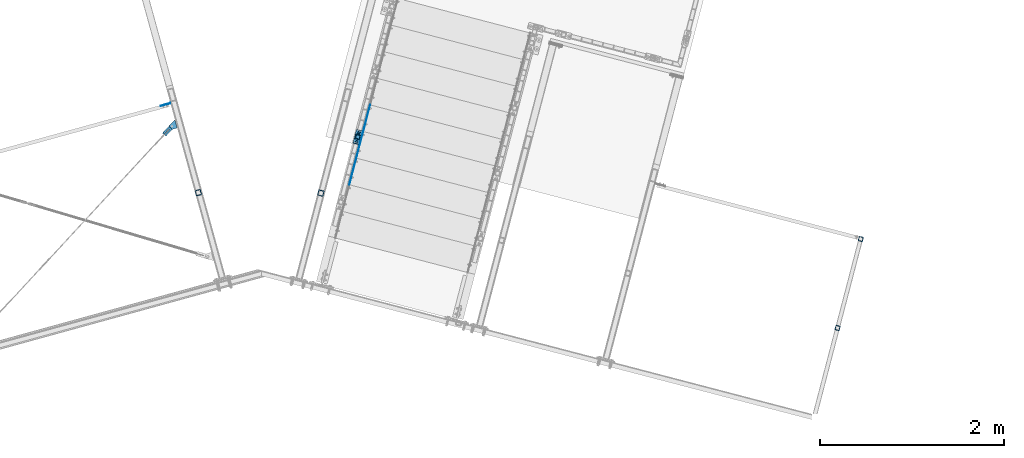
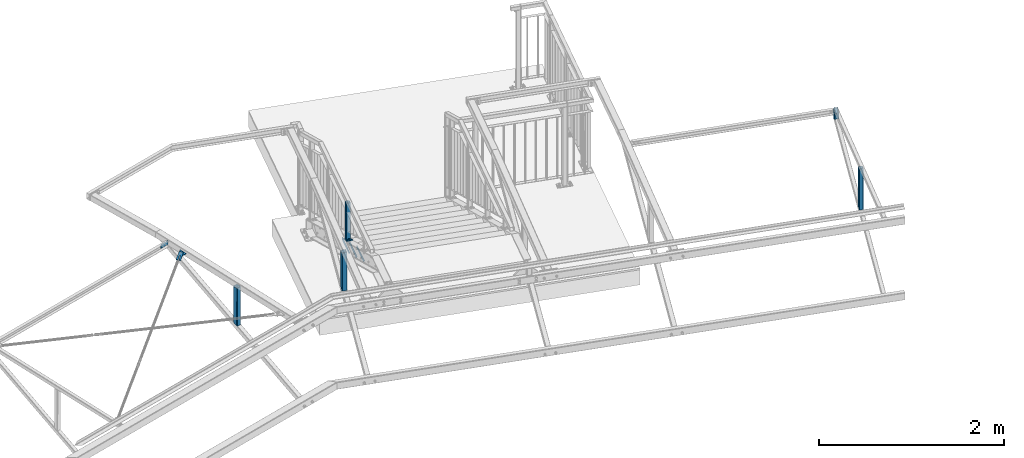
# One storey, part 90 of 169: 12 discrete accessories, 1 mechanical fastener, 8 elements without a shape of their own.
"""IFC2X3 building model written with IfcOpenShell, lengths in millimetres."""

from ifc_helpers import new_model, si_unit, frame, frame_2d, origin_with_axes, origin_2d_with_axis, place, context, subcontext, project, spatial, polyline, circle_curve, parameter, trimmed, segment, composite_curve, rectangle, hollow_rectangle, circle, outline, extrude, boolean, clip, halfspace, source, transform, mapped, material, type_object, element, aggregate, save


model = new_model("IFC2X3")

# Units and contexts
model_context = context("Model", 3, precision=1e-05, world=origin_with_axes())
body_context = subcontext(model_context, "Body", "Model", "MODEL_VIEW")
ifc_project = project(units=[si_unit("LENGTHUNIT", "METRE", prefix="MILLI"), si_unit("AREAUNIT", "SQUARE_METRE"), si_unit("VOLUMEUNIT", "CUBIC_METRE"), si_unit("MASSUNIT", "GRAM", prefix="KILO"), si_unit("TIMEUNIT", "SECOND"), si_unit("PLANEANGLEUNIT", "RADIAN"), si_unit("SOLIDANGLEUNIT", "STERADIAN"), si_unit("THERMODYNAMICTEMPERATUREUNIT", "DEGREE_CELSIUS"), si_unit("LUMINOUSINTENSITYUNIT", "LUMEN")], contexts=[model_context])

# Site, building, storey
site_placement = place(None, origin_with_axes())
site = spatial("IfcSite", under=ifc_project, at=site_placement, Name="Undefined", CompositionType="ELEMENT")
building_placement = place(site_placement, origin_with_axes())
building = spatial("IfcBuilding", under=site, at=building_placement, Name="Undefined", CompositionType="ELEMENT")
storey_placement = place(building_placement, origin_with_axes())
storey = spatial("IfcBuildingStorey", under=building, at=storey_placement, Name="Undefined", CompositionType="ELEMENT", Elevation=0.0)

# Assembly, discrete accessory
assembly_1_placement = place(storey_placement, origin_with_axes())
assembly_1 = element("IfcElementAssembly", 1, at=assembly_1_placement, inside=storey, Name="Steel Assembly", AssemblyPlace="NOTDEFINED", PredefinedType="RIGID_FRAME")
ifc_material_1 = material(Name="STEEL/S235")
discrete_accessory_type_1 = type_object("IfcDiscreteAccessoryType", Name="BLACHA")
discrete_accessory_1_placement = place(assembly_1_placement, frame((-10535.197656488, 19732.9763272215, 13495.0562424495), z_axis=(0.111692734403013, 0.427781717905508, 0.896954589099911), x_axis=(-0.967563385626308, 0.252628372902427, -1.72000000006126e-07)))
discrete_accessory_1 = element("IfcDiscreteAccessory", 2, at=discrete_accessory_1_placement, type_object=discrete_accessory_type_1, material=ifc_material_1, Name="BLACHA", ObjectType="BL12*170", context=body_context, shape_type="SweptSolid", body=[
    extrude(outline(polyline([(70.0000000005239, 84.9999999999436), (70.0000000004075, -84.9999999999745), (-5.82076609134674e-11, -84.99999999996), (5.82076609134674e-11, 84.99999999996), (70.0000000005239, 84.9999999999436)])), frame((-1.81898942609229e-12, -1.81898940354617e-12, -5.99999999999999), z_axis=(0.0, 0.0, 1.0), x_axis=(1.0, 0.0, 0.0)), (0.0, 0.0, 1.0), 12.0),
])

assembly_2_placement = place(storey_placement, origin_with_axes())
assembly_2 = element("IfcElementAssembly", 3, at=assembly_2_placement, inside=storey, Name="Steel Assembly", AssemblyPlace="NOTDEFINED", PredefinedType="RIGID_FRAME")
ifc_material_2 = material(Name="STEEL/S355")
discrete_accessory_2_placement = place(assembly_2_placement, frame((-12660.0974582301, 20095.9334560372, 13921.5005822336), z_axis=(0.265001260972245, -0.964247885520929, 0.000589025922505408), x_axis=(-0.000156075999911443, 0.000567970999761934, 0.999999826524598)))
discrete_accessory_2 = element("IfcDiscreteAccessory", 4, at=discrete_accessory_2_placement, type_object=discrete_accessory_type_1, material=ifc_material_2, Name="BLACHA", ObjectType="BL110X6", context=body_context, shape_type="SweptSolid", body=[
    extrude(outline(polyline([(-2.00088834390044e-11, 54.9999999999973), (49.9999999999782, 55.0000000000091), (50.00000000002, -54.9999999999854), (2.00088834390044e-11, -54.9999999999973), (-2.00088834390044e-11, 54.9999999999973)])), frame((4.06575814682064e-20, 9.09383216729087e-13, -3.0), z_axis=(0.0, 0.0, 1.0), x_axis=(1.0, 0.0, 0.0)), (0.0, 0.0, 1.0), 6.0),
])

assembly_3_placement = place(storey_placement, origin_with_axes())
assembly_3 = element("IfcElementAssembly", 5, at=assembly_3_placement, inside=storey, Name="Steel Assembly", AssemblyPlace="NOTDEFINED", PredefinedType="RIGID_FRAME")
discrete_accessory_3_placement = place(assembly_3_placement, frame((-12656.2090049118, 19752.1313300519, 13939.4835106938), z_axis=(0.013233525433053, -0.0481524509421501, 0.998752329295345), x_axis=(0.678875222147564, 0.733779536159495, 0.0263822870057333)))
discrete_accessory_3 = element("IfcDiscreteAccessory", 6, at=discrete_accessory_3_placement, type_object=discrete_accessory_type_1, material=ifc_material_1, Name="BLACHA", ObjectType="BL8*50", context=body_context, shape_type="SweptSolid", body=[
    extrude(outline(polyline([(0.0, 0.0), (150.000000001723, 4.00177668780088e-11), (150.000000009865, 50.0000000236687), (-2.8421709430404e-11, 50.0000000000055), (-1.63709046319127e-10, 30.0000000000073), (80.0000000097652, 30.0000000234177), (80.0000000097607, 20.0000000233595), (3.27418092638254e-11, 20.0000000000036), (0.0, 0.0)])), frame((1.81942236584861e-12, -3.63797880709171e-12, -4.00000000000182), z_axis=(0.0, 0.0, 1.0), x_axis=(1.0, 0.0, 0.0)), (0.0, 0.0, 1.0), 8.0),
])
aggregate(assembly_3, [discrete_accessory_3])

# Discrete accessory
discrete_accessory_4_placement = place(assembly_2_placement, frame((-12533.0285726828, 19841.1195582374, 13934.1317233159), z_axis=(0.013233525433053, -0.0481524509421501, 0.998752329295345), x_axis=(-0.264670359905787, 0.96304507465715, 0.0499378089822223)))
discrete_accessory_4 = element("IfcDiscreteAccessory", 7, at=discrete_accessory_4_placement, type_object=discrete_accessory_type_1, material=ifc_material_1, Name="BLACHA", ObjectType="BL8*80", context=body_context, shape_type="SweptSolid", body=[
    extrude(outline(polyline([(0.0, 0.0), (94.6373443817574, 8.25821189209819e-10), (42.4528236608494, 83.8679275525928), (2.23444658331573e-08, 57.4528236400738), (0.0, 0.0)])), frame((1.81942236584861e-12, -3.63797880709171e-12, -4.00000000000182), z_axis=(0.0, 0.0, 1.0), x_axis=(1.0, 0.0, 0.0)), (0.0, 0.0, 1.0), 8.0),
])

discrete_accessory_type_2 = type_object("IfcDiscreteAccessoryType", Name="BEAM")
discrete_accessory_5_placement = place(assembly_2_placement, frame((-12303.5697097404, 19138.272771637, 13879.1753071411), z_axis=(-0.265001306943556, 0.964248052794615, 0.0), x_axis=(-2.54700353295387e-10, 0.0, -1.0)))
discrete_accessory_5 = element("IfcDiscreteAccessory", 8, at=discrete_accessory_5_placement, type_object=discrete_accessory_type_2, material=ifc_material_1, Name="BEAM", ObjectType="SHS60*4", context=body_context, shape_type="Clipping", body=[
    clip(clip(extrude(hollow_rectangle(XDim=60.0, YDim=60.0, WallThickness=4.0, InnerFilletRadius=4.0, OuterFilletRadius=8.0, at=origin_2d_with_axis()), frame((535.438600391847, 0.0, 0.0), z_axis=(-1.0, -3.46944695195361e-18, -1.38777878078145e-17), x_axis=(1.73472347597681e-18, -1.0, 0.0)), (0.0, 0.0, 1.0), 523.84), halfspace(frame((60.5207570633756, 0.000644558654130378, 871.462888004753), z_axis=(-0.885407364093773, 2.14840959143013e-05, -0.464815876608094), x_axis=(-1.9022240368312e-05, -0.999999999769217, -9.98602767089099e-06)), True)), halfspace(frame((-21.0143712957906, 2.59569787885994e-08, 1000.74984163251), z_axis=(0.998752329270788, -1.61183526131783e-08, 0.0499378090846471), x_axis=(0.0, 1.0, 0.0)), True)),
])

aggregate(assembly_2, [discrete_accessory_2, discrete_accessory_4, discrete_accessory_5])

# Assembly, discrete accessory
assembly_4_placement = place(storey_placement, origin_with_axes())
assembly_4 = element("IfcElementAssembly", 9, at=assembly_4_placement, inside=storey, Name="Steel Assembly", AssemblyPlace="NOTDEFINED", PredefinedType="RIGID_FRAME")
discrete_accessory_6_placement = place(assembly_4_placement, frame((-10970.7810766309, 19133.46187354, 13879.1753071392), z_axis=(0.252628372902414, 0.967563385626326, 0.0), x_axis=(-2.54700353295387e-10, 0.0, -1.0)))
discrete_accessory_6 = element("IfcDiscreteAccessory", 10, at=discrete_accessory_6_placement, type_object=discrete_accessory_type_2, material=ifc_material_1, Name="BEAM", ObjectType="SHS60*4", context=body_context, shape_type="Clipping", body=[
    clip(clip(extrude(hollow_rectangle(XDim=60.0, YDim=60.0, WallThickness=4.0, InnerFilletRadius=4.0, OuterFilletRadius=8.0, at=origin_2d_with_axis()), frame((536.447056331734, 0.0, 0.0), z_axis=(-1.0, -3.46944695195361e-18, -1.38777878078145e-17), x_axis=(1.73472347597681e-18, -1.0, 0.0)), (0.0, 0.0, 1.0), 523.83), halfspace(frame((61.5292129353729, 0.000644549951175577, 871.462888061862), z_axis=(-0.885407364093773, 2.14840959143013e-05, -0.464815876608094), x_axis=(-1.9022240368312e-05, -0.999999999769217, -9.98602767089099e-06)), True)), halfspace(frame((-20.0003003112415, 1.08811946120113e-08, 1000.74984162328), z_axis=(0.998752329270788, -1.61183526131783e-08, 0.0499378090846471), x_axis=(0.0, 1.0, 0.0)), True)),
])
aggregate(assembly_4, [discrete_accessory_6])

# Assembly, discrete accessories
assembly_5_placement = place(storey_placement, origin_with_axes())
assembly_5 = element("IfcElementAssembly", 11, at=assembly_5_placement, inside=storey, Name="Steel Assembly", AssemblyPlace="NOTDEFINED", PredefinedType="RIGID_FRAME")
discrete_accessory_7_placement = place(assembly_5_placement, frame((-5351.40504010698, 17666.2568867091, 13879.1729712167), z_axis=(0.252628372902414, 0.967563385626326, 0.0), x_axis=(-2.54700353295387e-10, 0.0, -1.0)))
discrete_accessory_7 = element("IfcDiscreteAccessory", 12, at=discrete_accessory_7_placement, type_object=discrete_accessory_type_2, material=ifc_material_1, Name="BEAM", ObjectType="SHS50*4", context=body_context, shape_type="Clipping", body=[
    clip(clip(extrude(hollow_rectangle(XDim=50.0, YDim=50.0, WallThickness=4.0, InnerFilletRadius=4.0, OuterFilletRadius=8.0, at=origin_2d_with_axis()), frame((544.837429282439, 0.0, 0.0), z_axis=(-1.0, -3.46944695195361e-18, -1.38777878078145e-17), x_axis=(1.73472347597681e-18, -1.0, 0.0)), (0.0, 0.0, 1.0), 559.36), halfspace(frame((71.6032463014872, 0.000537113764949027, 873.786967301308), z_axis=(-0.885407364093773, 2.14840959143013e-05, -0.464815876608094), x_axis=(-1.9022240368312e-05, -0.999999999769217, -9.98602767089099e-06)), True)), halfspace(frame((-50.000323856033, -3.89425622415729e-07, 1000.00077448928), z_axis=(0.998752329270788, -1.61183526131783e-08, 0.0499378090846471), x_axis=(0.0, 1.0, 0.0)), True)),
])
discrete_accessory_8_placement = place(assembly_5_placement, frame((-5098.77710230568, 18633.8180417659, 13981.42232055), z_axis=(0.252628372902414, 0.967563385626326, 0.0), x_axis=(-2.54700353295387e-10, 0.0, -1.0)))
discrete_accessory_8 = element("IfcDiscreteAccessory", 13, at=discrete_accessory_8_placement, type_object=discrete_accessory_type_2, material=ifc_material_1, Name="BEAM", ObjectType="SHS50*4", context=body_context, shape_type="Clipping", body=[
    clip(clip(extrude(hollow_rectangle(XDim=50.0, YDim=50.0, WallThickness=4.0, InnerFilletRadius=4.0, OuterFilletRadius=8.0, at=origin_2d_with_axis()), frame((177.636600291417, 0.0, 0.0), z_axis=(-1.0, -3.46944695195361e-18, -1.38777878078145e-17), x_axis=(1.73472347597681e-18, -1.0, 0.0)), (0.0, 0.0, 1.0), 192.22), halfspace(frame((120.720179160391, 0.0023105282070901, -25.001155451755), z_axis=(-0.855828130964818, -2.39085282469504e-05, 0.5172602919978), x_axis=(4.59362126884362e-10, 0.999999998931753, 4.6222224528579e-05)), True)), halfspace(frame((0.93671128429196, -8.11782501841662e-06, 25.0000081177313), z_axis=(-0.689225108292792, 2.3570835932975e-07, -0.724547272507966), x_axis=(1.73472347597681e-18, -1.0, 0.0)), False)),
])
aggregate(assembly_5, [discrete_accessory_7, discrete_accessory_8])

# Discrete accessory
discrete_accessory_type_3 = type_object("IfcDiscreteAccessoryType", Name="STANCHION")
discrete_accessory_9_placement = place(assembly_1_placement, frame((-10568.3922185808, 19744.3850105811, 13116.2762906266), z_axis=(0.0, 0.0, 1.0), x_axis=(-0.967563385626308, 0.252628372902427, -1.72000000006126e-07)))
discrete_accessory_9 = element("IfcDiscreteAccessory", 14, at=discrete_accessory_9_placement, type_object=discrete_accessory_type_3, material=ifc_material_1, Name="STANCHION", ObjectType="SHS50*3", context=body_context, shape_type="Clipping", body=[
    clip(clip(extrude(hollow_rectangle(XDim=50.0, YDim=50.0, WallThickness=3.0, InnerFilletRadius=3.0, OuterFilletRadius=6.0, at=origin_2d_with_axis()), frame((0.0, 0.0, 874.141317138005), z_axis=(-2.54700353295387e-10, 0.0, -1.0), x_axis=(0.0, 1.0, 0.0)), (0.0, 0.0, 1.0), 489.98), halfspace(frame((1000.00000000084, 1.21617631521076e-08, 874.141317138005), z_axis=(-2.54700353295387e-10, 0.0, -1.0), x_axis=(0.0, 1.0, 0.0)), True)), halfspace(frame((-24.9999999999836, 0.0, 384.161679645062), z_axis=(-8.96961418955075e-10, -0.442122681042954, 0.896954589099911), x_axis=(-4.02729710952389e-10, 0.896954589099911, 0.442122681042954)), True)),
])

# Assembly, discrete accessory
assembly_6_placement = place(storey_placement, origin_with_axes())
assembly_6 = element("IfcElementAssembly", 15, at=assembly_6_placement, inside=storey, Name="Steel Assembly", AssemblyPlace="NOTDEFINED", PredefinedType="RIGID_FRAME")
ifc_material_3 = material(Name="STEEL/S235JR")
discrete_accessory_type_4 = type_object("IfcDiscreteAccessoryType", Name="ANGLE")
discrete_accessory_10_placement = place(assembly_6_placement, frame((-10661.5511249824, 19223.3146893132, 13543.1828582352), z_axis=(0.967563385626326, -0.252628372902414, 0.0), x_axis=(0.252628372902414, 0.967563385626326, 0.0)))
discrete_accessory_10 = element("IfcDiscreteAccessory", 16, at=discrete_accessory_10_placement, type_object=discrete_accessory_type_4, material=ifc_material_3, Name="ANGLE", ObjectType="3*30", context=body_context, shape_type="CSG", body=[
    boolean("DIFFERENCE", extrude(rectangle(XDim=30.0, YDim=3.0, at=origin_2d_with_axis()), frame((300.000000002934, 1.81898940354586e-12, -1.81898940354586e-12), z_axis=(-1.0, -3.46944695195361e-18, -1.38777878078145e-17), x_axis=(1.73472347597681e-18, -1.0, 0.0)), (0.0, 0.0, 1.0), 300.0), extrude(outline(polyline([(0.0, 0.0), (30.0000000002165, -6.73026079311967e-11), (30.0000000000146, 30.0000000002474), (0.0, 0.0)])), frame((-7.09587991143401e-09, 14.9999999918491, -4.4999999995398), z_axis=(0.0, 0.0, 1.0), x_axis=(1.73472347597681e-18, -1.0, 0.0)), (0.0, 0.0, 1.0), 9.0)),
])
aggregate(assembly_6, [discrete_accessory_10])

assembly_7_placement = place(storey_placement, origin_with_axes())
assembly_7 = element("IfcElementAssembly", 17, at=assembly_7_placement, inside=storey, Name="Steel Assembly", AssemblyPlace="NOTDEFINED", PredefinedType="RIGID_FRAME")
discrete_accessory_11_placement = place(assembly_7_placement, frame((-10585.9999197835, 19512.6748234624, 13395.7712750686), z_axis=(0.967563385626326, -0.252628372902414, 0.0), x_axis=(0.252628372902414, 0.967563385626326, 0.0)))
discrete_accessory_11 = element("IfcDiscreteAccessory", 18, at=discrete_accessory_11_placement, type_object=discrete_accessory_type_4, material=ifc_material_3, Name="ANGLE", ObjectType="3*30", context=body_context, shape_type="CSG", body=[
    boolean("DIFFERENCE", extrude(rectangle(XDim=30.0, YDim=3.0, at=origin_2d_with_axis()), frame((300.000000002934, 1.81898940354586e-12, -1.81898940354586e-12), z_axis=(-1.0, -3.46944695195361e-18, -1.38777878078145e-17), x_axis=(1.73472347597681e-18, -1.0, 0.0)), (0.0, 0.0, 1.0), 300.0), extrude(outline(polyline([(0.0, 0.0), (30.0000000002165, -6.73026079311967e-11), (30.0000000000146, 30.0000000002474), (0.0, 0.0)])), frame((-7.09587991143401e-09, 14.9999999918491, -4.4999999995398), z_axis=(0.0, 0.0, 1.0), x_axis=(1.73472347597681e-18, -1.0, 0.0)), (0.0, 0.0, 1.0), 9.0)),
])
aggregate(assembly_7, [discrete_accessory_11])

assembly_8_placement = place(storey_placement, origin_with_axes())
assembly_8 = element("IfcElementAssembly", 19, at=assembly_8_placement, inside=storey, Name="Steel Assembly", AssemblyPlace="NOTDEFINED", PredefinedType="RIGID_FRAME")
discrete_accessory_12_placement = place(assembly_8_placement, frame((-10510.4487145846, 19802.0349576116, 13248.3596919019), z_axis=(0.967563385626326, -0.252628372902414, 0.0), x_axis=(0.252628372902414, 0.967563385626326, 0.0)))
discrete_accessory_12 = element("IfcDiscreteAccessory", 20, at=discrete_accessory_12_placement, type_object=discrete_accessory_type_4, material=ifc_material_3, Name="ANGLE", ObjectType="3*30", context=body_context, shape_type="CSG", body=[
    boolean("DIFFERENCE", extrude(rectangle(XDim=30.0, YDim=3.0, at=origin_2d_with_axis()), frame((300.000000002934, 1.81898940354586e-12, -1.81898940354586e-12), z_axis=(-1.0, -3.46944695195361e-18, -1.38777878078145e-17), x_axis=(1.73472347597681e-18, -1.0, 0.0)), (0.0, 0.0, 1.0), 300.0), extrude(outline(polyline([(0.0, 0.0), (30.0000000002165, -6.73026079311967e-11), (30.0000000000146, 30.0000000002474), (0.0, 0.0)])), frame((-7.09587991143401e-09, 14.9999999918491, -4.4999999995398), z_axis=(0.0, 0.0, 1.0), x_axis=(1.73472347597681e-18, -1.0, 0.0)), (0.0, 0.0, 1.0), 9.0)),
])
aggregate(assembly_8, [discrete_accessory_12])

# Mechanical fastener
ifc_material_4 = material(Name="Undefined")
discrete_accessory_type_5 = type_object("IfcDiscreteAccessoryType", Name="Bolt assembly")
shared_shape = source(origin_with_axes(), body_context, "Body", "SweptSolid", [
    extrude(outline(composite_curve([segment(polyline([(7.5, 7.5), (7.5, -7.5)]), True, "CONTINUOUS"), segment(trimmed(circle_curve(frame_2d((0.0, -7.5), x_axis=(1.0, 0.0)), 7.5), [parameter(0.0)], [parameter(3.14159265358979)], False, "PARAMETER"), True, "CONTINUOUS"), segment(polyline([(-7.5, -7.5), (-7.5, 7.5)]), True, "CONTINUOUS"), segment(trimmed(circle_curve(frame_2d((0.0, 7.5), x_axis=(-1.0, 0.0)), 7.5), [parameter(0.0)], [parameter(3.14159265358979)], False, "PARAMETER"), True, "DISCONTINUOUS")], self_intersect=False)), frame((0.0, 0.900000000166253, 0.0), z_axis=(0.0, 1.0, 0.0), x_axis=(1.0, 0.0, 0.0)), (0.0, 0.0, 1.0), 11.1),
    extrude(outline(composite_curve([segment(polyline([(-7.5, 7.5), (7.5, 7.5)]), True, "CONTINUOUS"), segment(trimmed(circle_curve(frame_2d((7.5, 0.0), x_axis=(0.0, 1.0)), 7.5), [parameter(0.0)], [parameter(3.14159265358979)], False, "PARAMETER"), True, "CONTINUOUS"), segment(polyline([(7.5, -7.5), (-7.5, -7.5)]), True, "CONTINUOUS"), segment(trimmed(circle_curve(frame_2d((-7.5, 0.0), x_axis=(0.0, -1.0)), 7.5), [parameter(0.0)], [parameter(3.14159265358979)], False, "PARAMETER"), True, "DISCONTINUOUS")], self_intersect=False)), frame((0.0, -11.9000000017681, 0.0), z_axis=(0.0, 1.0, 0.0), x_axis=(1.0, 0.0, 0.0)), (0.0, 0.0, 1.0), 12.0),
    extrude(outline(polyline([(10.39230484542, 0.0), (5.19615242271, 9.00000000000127), (-5.19615242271, 9.00000000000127), (-10.39230484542, 0.0), (-5.19615242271, -9.00000000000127), (5.19615242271, -9.00000000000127), (10.39230484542, 0.0)])), frame((0.0, -22.5000000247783, 0.0), z_axis=(0.0, 1.0, 0.0), x_axis=(1.0, 0.0, 0.0)), (0.0, 0.0, 1.0), 7.5),
    extrude(circle(Radius=6.0, at=origin_2d_with_axis()), frame((0.0, -15.0000000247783, 0.0), z_axis=(0.0, 1.0, 0.0), x_axis=(1.0, 0.0, 0.0)), (0.0, 0.0, 1.0), 45.0),
    extrude(circle(Radius=12.0, at=origin_2d_with_axis()), frame((0.0, -15.0000000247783, 0.0), z_axis=(0.0, 1.0, 0.0), x_axis=(1.0, 0.0, 0.0)), (0.0, 0.0, 1.0), 3.0),
    extrude(circle(Radius=12.0, at=origin_2d_with_axis()), frame((0.0, 12.000000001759, 0.0), z_axis=(0.0, 1.0, 0.0), x_axis=(1.0, 0.0, 0.0)), (0.0, 0.0, 1.0), 3.0),
    extrude(outline(polyline([(10.96965511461, 0.0), (5.484827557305, 9.50000000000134), (-5.484827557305, 9.50000000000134), (-10.96965511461, 0.0), (-5.484827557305, -9.50000000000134), (5.484827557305, -9.50000000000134), (10.96965511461, 0.0)])), frame((0.0, 14.9999935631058, 0.0), z_axis=(0.0, 1.0, 0.0), x_axis=(1.0, 0.0, 0.0)), (0.0, 0.0, 1.0), 10.0),
])
mechanical_fastener_placement = place(assembly_1_placement, frame((-10593.9216160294, 19745.5673392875, 13489.6745149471), z_axis=(0.226596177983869, 0.867860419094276, -0.442122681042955), x_axis=(0.967563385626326, -0.252628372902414, 0.0)))
mechanical_fastener = element("IfcMechanicalFastener", 21, at=mechanical_fastener_placement, type_object=discrete_accessory_type_5, material=ifc_material_4, Name="Bolt assembly", NominalDiameter=12.0, NominalLength=45.0, context=body_context, shape_type="MappedRepresentation", body=[
    mapped(shared_shape, transform((24.9999999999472, 0.0, -60.0000000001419))),
    mapped(shared_shape, transform((24.9999999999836, -3.54702933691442e-11, 60.0000000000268))),
])

aggregate(assembly_1, [mechanical_fastener, discrete_accessory_1, discrete_accessory_9])

save(model, "model.ifc")
